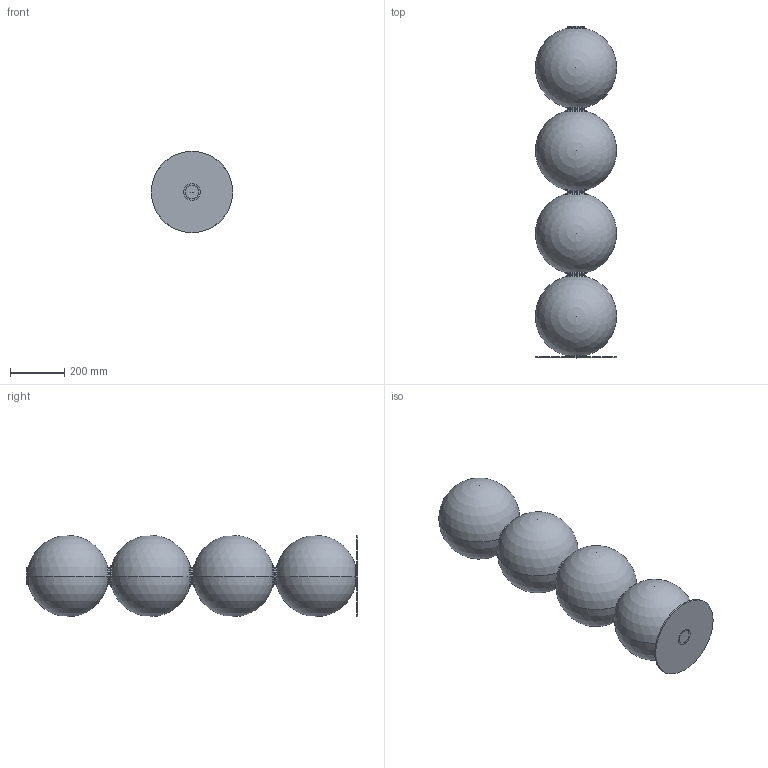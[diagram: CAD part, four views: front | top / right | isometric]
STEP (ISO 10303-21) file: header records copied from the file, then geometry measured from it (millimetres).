
FILE_DESCRIPTION (( 'STEP AP214' ), '1' );
FILE_NAME ('LUDO_P1368.STEP', '2026-08-27T11:28:29', ( '' ), ( '' ), 'SwSTEP 2.0', 'SolidWorks 2023', '' );
FILE_SCHEMA (( 'AUTOMOTIVE_DESIGN' ));
Length unit declared in the file: millimetre
Products named in the file (6): base pie; colgante; LUDO_P1368; union; tubo ison; bola ulon
Assembly tree (10 placements, depth 3):
  LUDO_P1368
    base pie
    colgante
      tubo ison
      bola ulon  x4
      union  x3
Bounding box: 300 x 1226 x 300 mm (x, y, z)
Volume: 60393488.3 mm3; surface area: 1672697.3 mm2
Topology: 18 solids, 18 shells, 289 faces, 760 edges, 498 vertices
Faces by surface type: cylinder 145, plane 74, sphere 32, bspline 18, torus 12, cone 8
Entity records: 7476 total; most frequent: CARTESIAN_POINT 3049, DIRECTION 917, ORIENTED_EDGE 872, EDGE_CURVE 436, AXIS2_PLACEMENT_3D 352, VERTEX_POINT 288, LINE 213, VECTOR 213
